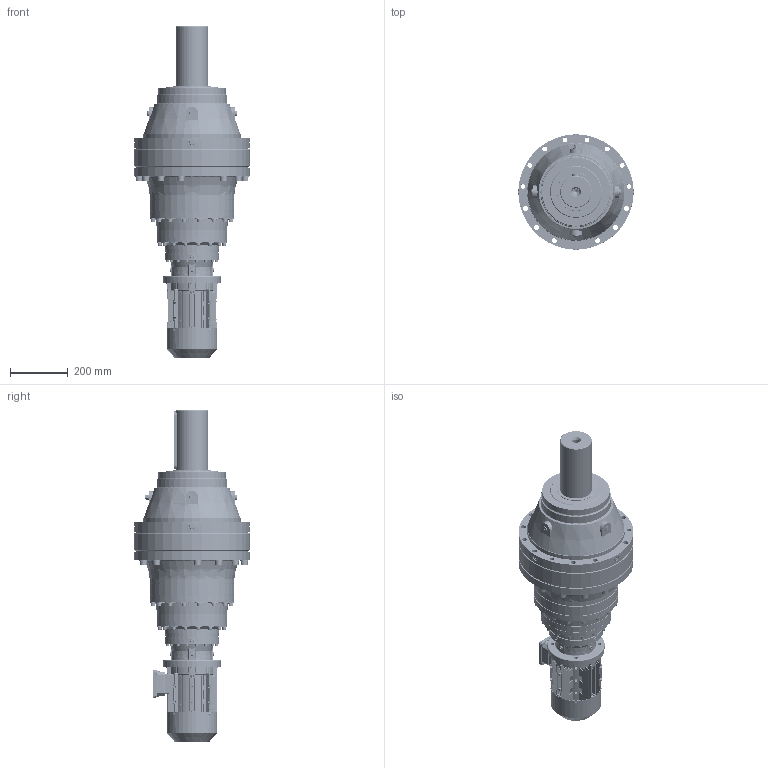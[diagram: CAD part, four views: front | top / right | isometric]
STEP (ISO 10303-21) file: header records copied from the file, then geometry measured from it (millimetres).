
FILE_DESCRIPTION (( 'STEP AP203' ), '1' );
FILE_NAME ('PVL_2704L-90S-4.STEP', '2019-05-10T07:52:59', ( '' ), ( '' ), 'SwSTEP 2.0', 'SolidWorks 2012', '' );
FILE_SCHEMA (( 'CONFIG_CONTROL_DESIGN' ));
Products named in the file (33): PVL_2704L-90S-4; MX3-90S_B5; cross recessed pan head screws gb_GB_CROSS_SCREWS_TYPE1 M4X6-6  H type-N; hexagon socket head cap screws gb_GB_FASTENER_SCREWS_HSHCS M6X30-N_2; hexagon socket head cap screws gb_GB_FASTENER_SCREWS_HSHCS M6X25-N_1; hexagon socket head cap screws gb_GB_FASTENER_SCREWS_HSHCS M6X40-N; IE3 90S  oil seal_2; IE3 90S flange_2; circlips for shaft--type b gb_GB_CONNECTING_PIECE_RINGS_CSB 20_2; IE3 90L cable glandsM16_2; cross recessed pan head screws gb_GB_CROSS_SCREWS_TYPE1 M5X10-10  H type-N_2; hexagon head bolts-full thread gb_GB_FASTENER_BOLT_STBAB A M4X16-N_2; cross recessed pan head screws gb_GB_CROSS_SCREWS_TYPE1 M5X20-20  H type-N_2; cross recessed pan head tapping screws gb_GB_CROSS_SCREWS_TYPE128 ST4.2X9.5 H C-N_2; hex nuts, style 1-grades ab gb_GB_FASTENER_NUT_SNAB1 M6-N_2; IE3 90S connection board_2; hexagon flange head tapping screws gb_GB_SQUARE_AND_HEXAGON_TYPE137 ST3.5X9.5 F-N_2; plain parallel keys_GB_CONNECTING_PIECE_KEYS_CSK 8X40_2; IE3 90S terminal box_2; IE3 90S terminal box cover_2; spring lock washers--normal type gb_GB_FASTENER_WASHER_SW 6_2; IE3 90S fan_2; IE3 90S fan cover_2; deep groove ball bearings gb_Rolling bearings 6205 GB 276-94_2; IE3 90S rotor_2; PNL_2704L_0_0_A09_B5_ML43A_FL12A_0_0_0_0_0_0_0_0_0_0_0_M1; IE3 90S flangeB5; IE3 90S casing_2; 1190B5_Varsayìlan; EK2704L_Varsayìlan; ML43A_Varsayìlan; FL12A_Varsayìlan; P27_Varsayìlan
Assembly tree (68 placements, depth 3):
  PVL_2704L-90S-4
    PNL_2704L_0_0_A09_B5_ML43A_FL12A_0_0_0_0_0_0_0_0_0_0_0_M1
      P27_Varsayìlan
      1190B5_Varsayìlan
      ML43A_Varsayìlan
      EK2704L_Varsayìlan
      FL12A_Varsayìlan
    MX3-90S_B5
      IE3 90S casing_2
      IE3 90S flangeB5
      IE3 90S rotor_2
      deep groove ball bearings gb_Rolling bearings 6205 GB 276-94_2  x2
      IE3 90S fan_2
      IE3 90S fan cover_2
      plain parallel keys_GB_CONNECTING_PIECE_KEYS_CSK 8X40_2
      IE3 90S terminal box_2
      IE3 90S terminal box cover_2
      spring lock washers--normal type gb_GB_FASTENER_WASHER_SW 6_2  x8
      hex nuts, style 1-grades ab gb_GB_FASTENER_NUT_SNAB1 M6-N_2  x7
      cross recessed pan head tapping screws gb_GB_CROSS_SCREWS_TYPE128 ST4.2X9.5 H C-N_2  x4
      hexagon flange head tapping screws gb_GB_SQUARE_AND_HEXAGON_TYPE137 ST3.5X9.5 F-N_2  x4
      IE3 90S connection board_2
      hexagon head bolts-full thread gb_GB_FASTENER_BOLT_STBAB A M4X16-N_2  x6
      cross recessed pan head screws gb_GB_CROSS_SCREWS_TYPE1 M5X20-20  H type-N_2  x2
      cross recessed pan head screws gb_GB_CROSS_SCREWS_TYPE1 M5X10-10  H type-N_2  x4
      IE3 90L cable glandsM16_2  x2
      circlips for shaft--type b gb_GB_CONNECTING_PIECE_RINGS_CSB 20_2
      IE3 90S  oil seal_2
      IE3 90S flange_2
      hexagon socket head cap screws gb_GB_FASTENER_SCREWS_HSHCS M6X40-N  x3
      hexagon socket head cap screws gb_GB_FASTENER_SCREWS_HSHCS M6X25-N_1
      hexagon socket head cap screws gb_GB_FASTENER_SCREWS_HSHCS M6X30-N_2  x4
      cross recessed pan head screws gb_GB_CROSS_SCREWS_TYPE1 M4X6-6  H type-N  x2
Bounding box: 400 x 400 x 1153.1 mm (x, y, z)
Volume: 48475705 mm3; surface area: 2534013.3 mm2
Topology: 74 solids, 74 shells, 8172 faces, 21388 edges, 13368 vertices
Faces by surface type: plane 3315, cylinder 2476, bspline 1642, cone 614, sphere 81, torus 44
Entity records: 286032 total; most frequent: CARTESIAN_POINT 112069, ORIENTED_EDGE 37886, DIRECTION 32453, EDGE_CURVE 18943, AXIS2_PLACEMENT_3D 12028, VERTEX_POINT 11981, LINE 8397, VECTOR 8397
